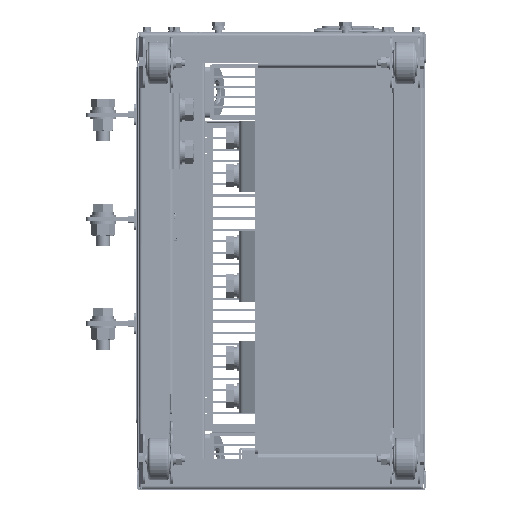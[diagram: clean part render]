
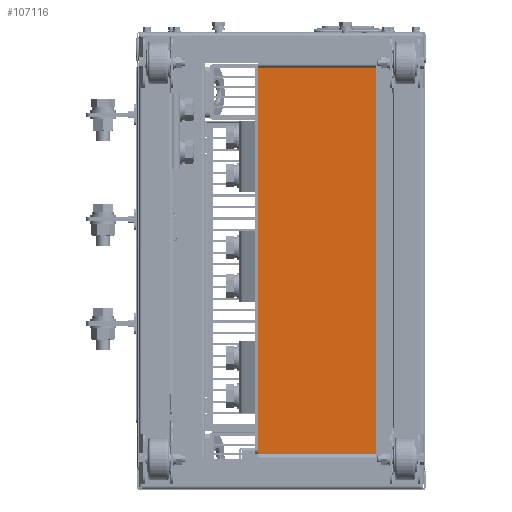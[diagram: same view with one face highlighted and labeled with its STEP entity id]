
A CAD part, front view. The second image highlights one B-rep face of the part: STEP entity #107116.
In plain terms, the highlighted planar face has unit normal (0, -1, 0).
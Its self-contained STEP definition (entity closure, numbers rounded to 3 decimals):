
#105680=DIRECTION('',(0.,0.,1.));
#105681=VECTOR('',#105680,139.);
#105682=CARTESIAN_POINT('',(-3.5,6.,-70.));
#105683=LINE('',#105682,#105681);
#105701=DIRECTION('',(-1.,0.,0.));
#105702=VECTOR('',#105701,395.);
#105703=CARTESIAN_POINT('',(-33.5,6.,-70.));
#105704=LINE('',#105703,#105702);
#105708=DIRECTION('',(-1.,0.,0.));
#105709=VECTOR('',#105708,30.);
#105710=CARTESIAN_POINT('',(-428.5,6.,-70.));
#105711=LINE('',#105710,#105709);
#105715=DIRECTION('',(-1.,0.,0.));
#105716=VECTOR('',#105715,30.);
#105717=CARTESIAN_POINT('',(-3.5,6.,-70.));
#105718=LINE('',#105717,#105716);
#105852=DIRECTION('',(-1.,0.,0.));
#105853=VECTOR('',#105852,455.);
#105854=CARTESIAN_POINT('',(-3.5,6.,69.));
#105855=LINE('',#105854,#105853);
#106018=DIRECTION('',(0.,0.,-1.));
#106019=VECTOR('',#106018,139.);
#106020=CARTESIAN_POINT('',(-458.5,6.,69.));
#106021=LINE('',#106020,#106019);
#106764=CARTESIAN_POINT('',(-3.5,6.,-70.));
#106765=VERTEX_POINT('',#106764);
#106768=CARTESIAN_POINT('',(-3.5,6.,69.));
#106769=VERTEX_POINT('',#106768);
#106774=CARTESIAN_POINT('',(-33.5,6.,-70.));
#106775=CARTESIAN_POINT('',(-428.5,6.,-70.));
#106776=VERTEX_POINT('',#106774);
#106777=VERTEX_POINT('',#106775);
#106778=CARTESIAN_POINT('',(-458.5,6.,-70.));
#106779=VERTEX_POINT('',#106778);
#106780=CARTESIAN_POINT('',(-458.5,6.,69.));
#106781=VERTEX_POINT('',#106780);
#107098=CARTESIAN_POINT('',(-2.5,6.,70.));
#107099=DIRECTION('',(0.,-1.,0.));
#107100=DIRECTION('',(0.,0.,1.));
#107101=AXIS2_PLACEMENT_3D('',#107098,#107099,#107100);
#107102=PLANE('',#107101);
#107104=ORIENTED_EDGE('',*,*,#107103,.T.);
#107106=ORIENTED_EDGE('',*,*,#107105,.T.);
#107108=ORIENTED_EDGE('',*,*,#107107,.F.);
#107110=ORIENTED_EDGE('',*,*,#107109,.F.);
#107111=ORIENTED_EDGE('',*,*,#107086,.F.);
#107113=ORIENTED_EDGE('',*,*,#107112,.T.);
#107114=EDGE_LOOP('',(#107104,#107106,#107108,#107110,#107111,#107113));
#107115=FACE_OUTER_BOUND('',#107114,.F.);
#107086=EDGE_CURVE('',#106765,#106769,#105683,.T.);
#107103=EDGE_CURVE('',#106776,#106777,#105704,.T.);
#107105=EDGE_CURVE('',#106777,#106779,#105711,.T.);
#107107=EDGE_CURVE('',#106781,#106779,#106021,.T.);
#107109=EDGE_CURVE('',#106769,#106781,#105855,.T.);
#107112=EDGE_CURVE('',#106765,#106776,#105718,.T.);
#107116=ADVANCED_FACE('',(#107115),#107102,.T.);
